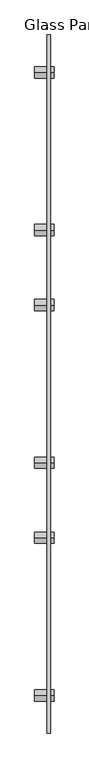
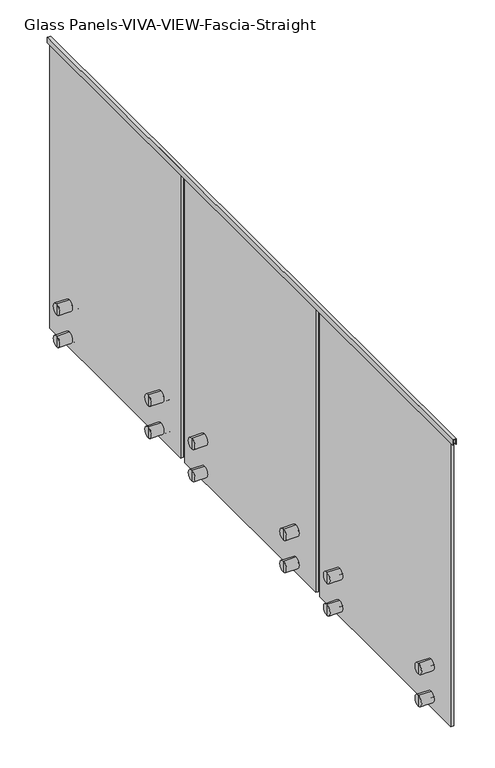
"""IFC4 building model written with IfcOpenShell, lengths in millimetres: railing geometry, Glass Panels-VIVA-VIEW-Fascia-Straight."""

from ifc_helpers import new_model, si_unit, frame, origin, place, context, project, spatial, polyline, circle_curve, outline, extrude, source, transform, mapped, element, save
from ifc_brep_helpers import plane_surface, cylinder_surface, advanced_brep


def glass_panels_viva_view_fascia_straight_22dfb696(model_context):
    return source(origin(), model_context, "Body", "SolidModel", [
        extrude(outline(polyline([(4140.2, 42942.1483583), (4114.8, 42942.1483583), (4114.8, 42943.7358583), (4138.6125, 42943.7358583), (4138.6125, 42956.4358583), (4114.8, 42956.4358583), (4114.8, 42958.0233583), (4140.2, 42958.0233583), (4140.2, 42942.1483583)])), frame((0.0, -2588.6148227, 0.0), z_axis=(0.0, 1.0, 0.0), x_axis=(0.0, 0.0, 1.0)), (0.0, 0.0, 1.0), 3149.6),
        advanced_brep(
        [(42973.8980644, -319.1651094, 2794.0), (42973.8980644, -319.1651094, 2844.8), (42973.8980644, -319.1651094, 2819.4), (42956.4355644, -319.1651094, 2794.0), (42956.4355644, -319.1651094, 2844.8), (42956.4355644, -319.1651094, 2813.685), (42956.4355644, -319.1651094, 2825.115), (42943.7355644, -319.1651094, 2813.685), (42943.7355644, -319.1651094, 2825.115), (42943.7355644, -319.1651094, 2794.0), (42943.7355644, -319.1651094, 2844.8), (42886.5857113, -319.1651094, 2794.0), (42886.5857113, -319.1651094, 2844.8), (42886.5857113, -319.1651094, 2819.4)],
        [
            (0, 1, circle_curve(frame((42973.8980644, -319.1651094, 2819.4), z_axis=(1.0, 0.0, 0.0), x_axis=(0.0, 0.0, 1.0)), 25.4)),
            (1, 2),
            (2, 0),
            (1, 0, circle_curve(frame((42973.8980644, -319.1651094, 2819.4), z_axis=(1.0, 0.0, 0.0), x_axis=(0.0, 0.0, 1.0)), 25.4)),
            (3, 4, circle_curve(frame((42956.4355644, -319.1651094, 2819.4), z_axis=(1.0, 0.0, 0.0), x_axis=(0.0, 0.0, 1.0)), 25.4)),
            (4, 1),
            (0, 3),
            (4, 3, circle_curve(frame((42956.4355644, -319.1651094, 2819.4), z_axis=(1.0, 0.0, 0.0), x_axis=(0.0, 0.0, 1.0)), 25.4)),
            (5, 6, circle_curve(frame((42956.4355644, -319.1651094, 2819.4), z_axis=(1.0, 0.0, 0.0), x_axis=(0.0, 0.0, 1.0)), 5.715)),
            (6, 4),
            (3, 5),
            (6, 5, circle_curve(frame((42956.4355644, -319.1651094, 2819.4), z_axis=(1.0, 0.0, 0.0), x_axis=(0.0, 0.0, 1.0)), 5.715)),
            (7, 8, circle_curve(frame((42943.7355644, -319.1651094, 2819.4), z_axis=(1.0, 0.0, 0.0), x_axis=(0.0, 0.0, 1.0)), 5.715)),
            (8, 6),
            (5, 7),
            (8, 7, circle_curve(frame((42943.7355644, -319.1651094, 2819.4), z_axis=(1.0, 0.0, 0.0), x_axis=(0.0, 0.0, 1.0)), 5.715)),
            (9, 10, circle_curve(frame((42943.7355644, -319.1651094, 2819.4), z_axis=(1.0, 0.0, 0.0), x_axis=(0.0, 0.0, 1.0)), 25.4)),
            (10, 8),
            (7, 9),
            (10, 9, circle_curve(frame((42943.7355644, -319.1651094, 2819.4), z_axis=(1.0, 0.0, 0.0), x_axis=(0.0, 0.0, 1.0)), 25.4)),
            (11, 12, circle_curve(frame((42886.5857113, -319.1651094, 2819.4), z_axis=(1.0, 0.0, 0.0), x_axis=(0.0, 0.0, 1.0)), 25.4)),
            (12, 10),
            (9, 11),
            (12, 11, circle_curve(frame((42886.5857113, -319.1651094, 2819.4), z_axis=(1.0, 0.0, 0.0), x_axis=(0.0, 0.0, 1.0)), 25.4)),
            (13, 12),
            (11, 13),
        ],
        [
            plane_surface(frame((42973.8980644, -319.1651094, 2819.4), z_axis=(1.0, 0.0, 0.0), x_axis=(0.0, 0.0, 1.0))),
            cylinder_surface(frame((43042.1607113, -319.1651094, 2819.4), z_axis=(-1.0, 0.0, 0.0), x_axis=(0.0, 0.0, 1.0)), 25.4),
            plane_surface(frame((42956.4355644, -319.1651094, 2819.4), z_axis=(-1.0, 0.0, 0.0), x_axis=(0.0, 0.0, 1.0))),
            cylinder_surface(frame((43042.1607113, -319.1651094, 2819.4), z_axis=(-1.0, 0.0, 0.0), x_axis=(0.0, 0.0, 1.0)), 5.715),
            plane_surface(frame((42943.7355644, -319.1651094, 2819.4), z_axis=(1.0, 0.0, 0.0), x_axis=(0.0, 0.0, 1.0))),
            plane_surface(frame((42886.5857113, -319.1651094, 2819.4), z_axis=(-1.0, 0.0, 0.0), x_axis=(0.0, 0.0, 1.0))),
        ],
        [
            (0, [[1, 2, 3]]),
            (0, [[4, -3, -2]]),
            (1, [[5, 6, -1, 7]]),
            (1, [[8, -7, -4, -6]]),
            (2, [[9, 10, -5, 11]]),
            (2, [[12, -11, -8, -10]]),
            (3, [[13, 14, -9, 15]]),
            (3, [[16, -15, -12, -14]]),
            (4, [[17, 18, -13, 19]]),
            (4, [[20, -19, -16, -18]]),
            (1, [[21, 22, -17, 23]]),
            (1, [[24, -23, -20, -22]]),
            (5, [[25, -21, 26]]),
            (5, [[-26, -24, -25]]),
        ],
    ),
        advanced_brep(
        [(42956.4355644, -319.1651094, 2966.085), (42956.4355644, -319.1651094, 2977.515), (42956.4355644, -319.1651094, 2997.2), (42956.4355644, -319.1651094, 2946.4), (42943.7355644, -319.1651094, 2966.085), (42943.7355644, -319.1651094, 2977.515), (42943.7355644, -319.1651094, 2946.4), (42943.7355644, -319.1651094, 2997.2), (42886.5857113, -319.1651094, 2946.4), (42886.5857113, -319.1651094, 2997.2), (42886.5857113, -319.1651094, 2971.8), (42973.8980644, -319.1651094, 2946.4), (42973.8980644, -319.1651094, 2997.2), (42973.8980644, -319.1651094, 2971.8)],
        [
            (0, 1, circle_curve(frame((42956.4355644, -319.1651094, 2971.8), z_axis=(1.0, 0.0, 0.0), x_axis=(0.0, 0.0, 1.0)), 5.715)),
            (1, 2),
            (2, 3, circle_curve(frame((42956.4355644, -319.1651094, 2971.8), z_axis=(-1.0, 0.0, 0.0), x_axis=(0.0, 0.0, 1.0)), 25.4)),
            (3, 0),
            (1, 0, circle_curve(frame((42956.4355644, -319.1651094, 2971.8), z_axis=(1.0, 0.0, 0.0), x_axis=(0.0, 0.0, 1.0)), 5.715)),
            (3, 2, circle_curve(frame((42956.4355644, -319.1651094, 2971.8), z_axis=(-1.0, 0.0, 0.0), x_axis=(0.0, 0.0, 1.0)), 25.4)),
            (4, 5, circle_curve(frame((42943.7355644, -319.1651094, 2971.8), z_axis=(1.0, 0.0, 0.0), x_axis=(0.0, 0.0, 1.0)), 5.715)),
            (5, 1),
            (0, 4),
            (5, 4, circle_curve(frame((42943.7355644, -319.1651094, 2971.8), z_axis=(1.0, 0.0, 0.0), x_axis=(0.0, 0.0, 1.0)), 5.715)),
            (6, 7, circle_curve(frame((42943.7355644, -319.1651094, 2971.8), z_axis=(1.0, 0.0, 0.0), x_axis=(0.0, 0.0, 1.0)), 25.4)),
            (7, 5),
            (4, 6),
            (7, 6, circle_curve(frame((42943.7355644, -319.1651094, 2971.8), z_axis=(1.0, 0.0, 0.0), x_axis=(0.0, 0.0, 1.0)), 25.4)),
            (8, 9, circle_curve(frame((42886.5857113, -319.1651094, 2971.8), z_axis=(1.0, 0.0, 0.0), x_axis=(0.0, 0.0, 1.0)), 25.4)),
            (9, 7),
            (6, 8),
            (9, 8, circle_curve(frame((42886.5857113, -319.1651094, 2971.8), z_axis=(1.0, 0.0, 0.0), x_axis=(0.0, 0.0, 1.0)), 25.4)),
            (10, 9),
            (8, 10),
            (11, 12, circle_curve(frame((42973.8980644, -319.1651094, 2971.8), z_axis=(1.0, 0.0, 0.0), x_axis=(0.0, 0.0, 1.0)), 25.4)),
            (12, 13),
            (13, 11),
            (12, 11, circle_curve(frame((42973.8980644, -319.1651094, 2971.8), z_axis=(1.0, 0.0, 0.0), x_axis=(0.0, 0.0, 1.0)), 25.4)),
            (2, 12),
            (11, 3),
        ],
        [
            plane_surface(frame((42956.4355644, -319.1651094, 2971.8), z_axis=(-1.0, 0.0, 0.0), x_axis=(0.0, 0.0, 1.0))),
            cylinder_surface(frame((43042.1607113, -319.1651094, 2971.8), z_axis=(-1.0, 0.0, 0.0), x_axis=(0.0, 0.0, 1.0)), 5.715),
            plane_surface(frame((42943.7355644, -319.1651094, 2971.8), z_axis=(1.0, 0.0, 0.0), x_axis=(0.0, 0.0, 1.0))),
            cylinder_surface(frame((43042.1607113, -319.1651094, 2971.8), z_axis=(-1.0, 0.0, 0.0), x_axis=(0.0, 0.0, 1.0)), 25.4),
            plane_surface(frame((42886.5857113, -319.1651094, 2971.8), z_axis=(-1.0, 0.0, 0.0), x_axis=(0.0, 0.0, 1.0))),
            plane_surface(frame((42973.8980644, -319.1651094, 2971.8), z_axis=(1.0, 0.0, 0.0), x_axis=(0.0, 0.0, 1.0))),
        ],
        [
            (0, [[1, 2, 3, 4]]),
            (0, [[5, -4, 6, -2]]),
            (1, [[7, 8, -1, 9]]),
            (1, [[10, -9, -5, -8]]),
            (2, [[11, 12, -7, 13]]),
            (2, [[14, -13, -10, -12]]),
            (3, [[15, 16, -11, 17]]),
            (3, [[18, -17, -14, -16]]),
            (4, [[19, -15, 20]]),
            (4, [[-20, -18, -19]]),
            (5, [[21, 22, 23]]),
            (5, [[24, -23, -22]]),
            (3, [[-3, 25, -21, 26]]),
            (3, [[-6, -26, -24, -25]]),
        ],
    ),
        advanced_brep(
        [(42973.8980644, 392.0348906, 2794.0), (42973.8980644, 392.0348906, 2844.8), (42973.8980644, 392.0348906, 2819.4), (42956.4355644, 392.0348906, 2794.0), (42956.4355644, 392.0348906, 2844.8), (42956.4355644, 392.0348906, 2813.685), (42956.4355644, 392.0348906, 2825.115), (42943.7355644, 392.0348906, 2813.685), (42943.7355644, 392.0348906, 2825.115), (42943.7355644, 392.0348906, 2794.0), (42943.7355644, 392.0348906, 2844.8), (42886.5857113, 392.0348906, 2794.0), (42886.5857113, 392.0348906, 2844.8), (42886.5857113, 392.0348906, 2819.4)],
        [
            (0, 1, circle_curve(frame((42973.8980644, 392.0348906, 2819.4), z_axis=(1.0, 0.0, 0.0), x_axis=(0.0, 0.0, 1.0)), 25.4)),
            (1, 2),
            (2, 0),
            (1, 0, circle_curve(frame((42973.8980644, 392.0348906, 2819.4), z_axis=(1.0, 0.0, 0.0), x_axis=(0.0, 0.0, 1.0)), 25.4)),
            (3, 4, circle_curve(frame((42956.4355644, 392.0348906, 2819.4), z_axis=(1.0, 0.0, 0.0), x_axis=(0.0, 0.0, 1.0)), 25.4)),
            (4, 1),
            (0, 3),
            (4, 3, circle_curve(frame((42956.4355644, 392.0348906, 2819.4), z_axis=(1.0, 0.0, 0.0), x_axis=(0.0, 0.0, 1.0)), 25.4)),
            (5, 6, circle_curve(frame((42956.4355644, 392.0348906, 2819.4), z_axis=(1.0, 0.0, 0.0), x_axis=(0.0, 0.0, 1.0)), 5.715)),
            (6, 4),
            (3, 5),
            (6, 5, circle_curve(frame((42956.4355644, 392.0348906, 2819.4), z_axis=(1.0, 0.0, 0.0), x_axis=(0.0, 0.0, 1.0)), 5.715)),
            (7, 8, circle_curve(frame((42943.7355644, 392.0348906, 2819.4), z_axis=(1.0, 0.0, 0.0), x_axis=(0.0, 0.0, 1.0)), 5.715)),
            (8, 6),
            (5, 7),
            (8, 7, circle_curve(frame((42943.7355644, 392.0348906, 2819.4), z_axis=(1.0, 0.0, 0.0), x_axis=(0.0, 0.0, 1.0)), 5.715)),
            (9, 10, circle_curve(frame((42943.7355644, 392.0348906, 2819.4), z_axis=(1.0, 0.0, 0.0), x_axis=(0.0, 0.0, 1.0)), 25.4)),
            (10, 8),
            (7, 9),
            (10, 9, circle_curve(frame((42943.7355644, 392.0348906, 2819.4), z_axis=(1.0, 0.0, 0.0), x_axis=(0.0, 0.0, 1.0)), 25.4)),
            (11, 12, circle_curve(frame((42886.5857113, 392.0348906, 2819.4), z_axis=(1.0, 0.0, 0.0), x_axis=(0.0, 0.0, 1.0)), 25.4)),
            (12, 10),
            (9, 11),
            (12, 11, circle_curve(frame((42886.5857113, 392.0348906, 2819.4), z_axis=(1.0, 0.0, 0.0), x_axis=(0.0, 0.0, 1.0)), 25.4)),
            (13, 12),
            (11, 13),
        ],
        [
            plane_surface(frame((42973.8980644, 392.0348906, 2819.4), z_axis=(1.0, 0.0, 0.0), x_axis=(0.0, 0.0, 1.0))),
            cylinder_surface(frame((43042.1607113, 392.0348906, 2819.4), z_axis=(-1.0, 0.0, 0.0), x_axis=(0.0, 0.0, 1.0)), 25.4),
            plane_surface(frame((42956.4355644, 392.0348906, 2819.4), z_axis=(-1.0, 0.0, 0.0), x_axis=(0.0, 0.0, 1.0))),
            cylinder_surface(frame((43042.1607113, 392.0348906, 2819.4), z_axis=(-1.0, 0.0, 0.0), x_axis=(0.0, 0.0, 1.0)), 5.715),
            plane_surface(frame((42943.7355644, 392.0348906, 2819.4), z_axis=(1.0, 0.0, 0.0), x_axis=(0.0, 0.0, 1.0))),
            plane_surface(frame((42886.5857113, 392.0348906, 2819.4), z_axis=(-1.0, 0.0, 0.0), x_axis=(0.0, 0.0, 1.0))),
        ],
        [
            (0, [[1, 2, 3]]),
            (0, [[4, -3, -2]]),
            (1, [[5, 6, -1, 7]]),
            (1, [[8, -7, -4, -6]]),
            (2, [[9, 10, -5, 11]]),
            (2, [[12, -11, -8, -10]]),
            (3, [[13, 14, -9, 15]]),
            (3, [[16, -15, -12, -14]]),
            (4, [[17, 18, -13, 19]]),
            (4, [[20, -19, -16, -18]]),
            (1, [[21, 22, -17, 23]]),
            (1, [[24, -23, -20, -22]]),
            (5, [[25, -21, 26]]),
            (5, [[-26, -24, -25]]),
        ],
    ),
        advanced_brep(
        [(42956.4355644, 392.0348906, 2966.085), (42956.4355644, 392.0348906, 2977.515), (42956.4355644, 392.0348906, 2997.2), (42956.4355644, 392.0348906, 2946.4), (42943.7355644, 392.0348906, 2966.085), (42943.7355644, 392.0348906, 2977.515), (42943.7355644, 392.0348906, 2946.4), (42943.7355644, 392.0348906, 2997.2), (42886.5857113, 392.0348906, 2946.4), (42886.5857113, 392.0348906, 2997.2), (42886.5857113, 392.0348906, 2971.8), (42973.8980644, 392.0348906, 2946.4), (42973.8980644, 392.0348906, 2997.2), (42973.8980644, 392.0348906, 2971.8)],
        [
            (0, 1, circle_curve(frame((42956.4355644, 392.0348906, 2971.8), z_axis=(1.0, 0.0, 0.0), x_axis=(0.0, 0.0, 1.0)), 5.715)),
            (1, 2),
            (2, 3, circle_curve(frame((42956.4355644, 392.0348906, 2971.8), z_axis=(-1.0, 0.0, 0.0), x_axis=(0.0, 0.0, 1.0)), 25.4)),
            (3, 0),
            (1, 0, circle_curve(frame((42956.4355644, 392.0348906, 2971.8), z_axis=(1.0, 0.0, 0.0), x_axis=(0.0, 0.0, 1.0)), 5.715)),
            (3, 2, circle_curve(frame((42956.4355644, 392.0348906, 2971.8), z_axis=(-1.0, 0.0, 0.0), x_axis=(0.0, 0.0, 1.0)), 25.4)),
            (4, 5, circle_curve(frame((42943.7355644, 392.0348906, 2971.8), z_axis=(1.0, 0.0, 0.0), x_axis=(0.0, 0.0, 1.0)), 5.715)),
            (5, 1),
            (0, 4),
            (5, 4, circle_curve(frame((42943.7355644, 392.0348906, 2971.8), z_axis=(1.0, 0.0, 0.0), x_axis=(0.0, 0.0, 1.0)), 5.715)),
            (6, 7, circle_curve(frame((42943.7355644, 392.0348906, 2971.8), z_axis=(1.0, 0.0, 0.0), x_axis=(0.0, 0.0, 1.0)), 25.4)),
            (7, 5),
            (4, 6),
            (7, 6, circle_curve(frame((42943.7355644, 392.0348906, 2971.8), z_axis=(1.0, 0.0, 0.0), x_axis=(0.0, 0.0, 1.0)), 25.4)),
            (8, 9, circle_curve(frame((42886.5857113, 392.0348906, 2971.8), z_axis=(1.0, 0.0, 0.0), x_axis=(0.0, 0.0, 1.0)), 25.4)),
            (9, 7),
            (6, 8),
            (9, 8, circle_curve(frame((42886.5857113, 392.0348906, 2971.8), z_axis=(1.0, 0.0, 0.0), x_axis=(0.0, 0.0, 1.0)), 25.4)),
            (10, 9),
            (8, 10),
            (11, 12, circle_curve(frame((42973.8980644, 392.0348906, 2971.8), z_axis=(1.0, 0.0, 0.0), x_axis=(0.0, 0.0, 1.0)), 25.4)),
            (12, 13),
            (13, 11),
            (12, 11, circle_curve(frame((42973.8980644, 392.0348906, 2971.8), z_axis=(1.0, 0.0, 0.0), x_axis=(0.0, 0.0, 1.0)), 25.4)),
            (2, 12),
            (11, 3),
        ],
        [
            plane_surface(frame((42956.4355644, 392.0348906, 2971.8), z_axis=(-1.0, 0.0, 0.0), x_axis=(0.0, 0.0, 1.0))),
            cylinder_surface(frame((43042.1607113, 392.0348906, 2971.8), z_axis=(-1.0, 0.0, 0.0), x_axis=(0.0, 0.0, 1.0)), 5.715),
            plane_surface(frame((42943.7355644, 392.0348906, 2971.8), z_axis=(1.0, 0.0, 0.0), x_axis=(0.0, 0.0, 1.0))),
            cylinder_surface(frame((43042.1607113, 392.0348906, 2971.8), z_axis=(-1.0, 0.0, 0.0), x_axis=(0.0, 0.0, 1.0)), 25.4),
            plane_surface(frame((42886.5857113, 392.0348906, 2971.8), z_axis=(-1.0, 0.0, 0.0), x_axis=(0.0, 0.0, 1.0))),
            plane_surface(frame((42973.8980644, 392.0348906, 2971.8), z_axis=(1.0, 0.0, 0.0), x_axis=(0.0, 0.0, 1.0))),
        ],
        [
            (0, [[1, 2, 3, 4]]),
            (0, [[5, -4, 6, -2]]),
            (1, [[7, 8, -1, 9]]),
            (1, [[10, -9, -5, -8]]),
            (2, [[11, 12, -7, 13]]),
            (2, [[14, -13, -10, -12]]),
            (3, [[15, 16, -11, 17]]),
            (3, [[18, -17, -14, -16]]),
            (4, [[19, -15, 20]]),
            (4, [[-20, -18, -19]]),
            (5, [[21, 22, 23]]),
            (5, [[24, -23, -22]]),
            (3, [[-3, 25, -21, 26]]),
            (3, [[-6, -26, -24, -25]]),
        ],
    ),
        extrude(outline(polyline([(42943.7358583, -471.5651094), (42943.7358583, 544.4348906), (42956.4358583, 544.4348906), (42956.4358583, -471.5651094), (42943.7358583, -471.5651094)])), frame((0.0, 0.0, 2768.6), z_axis=(0.0, 0.0, 1.0), x_axis=(1.0, 0.0, 0.0)), (0.0, 0.0, 1.0), 1370.0125),
        advanced_brep(
        [(42973.8980644, -1369.0317761, 2794.0), (42973.8980644, -1369.0317761, 2844.8), (42973.8980644, -1369.0317761, 2819.4), (42956.4355644, -1369.0317761, 2794.0), (42956.4355644, -1369.0317761, 2844.8), (42956.4355644, -1369.0317761, 2813.685), (42956.4355644, -1369.0317761, 2825.115), (42943.7355644, -1369.0317761, 2813.685), (42943.7355644, -1369.0317761, 2825.115), (42943.7355644, -1369.0317761, 2794.0), (42943.7355644, -1369.0317761, 2844.8), (42886.5857113, -1369.0317761, 2794.0), (42886.5857113, -1369.0317761, 2844.8), (42886.5857113, -1369.0317761, 2819.4)],
        [
            (0, 1, circle_curve(frame((42973.8980644, -1369.0317761, 2819.4), z_axis=(1.0, 0.0, 0.0), x_axis=(0.0, 0.0, 1.0)), 25.4)),
            (1, 2),
            (2, 0),
            (1, 0, circle_curve(frame((42973.8980644, -1369.0317761, 2819.4), z_axis=(1.0, 0.0, 0.0), x_axis=(0.0, 0.0, 1.0)), 25.4)),
            (3, 4, circle_curve(frame((42956.4355644, -1369.0317761, 2819.4), z_axis=(1.0, 0.0, 0.0), x_axis=(0.0, 0.0, 1.0)), 25.4)),
            (4, 1),
            (0, 3),
            (4, 3, circle_curve(frame((42956.4355644, -1369.0317761, 2819.4), z_axis=(1.0, 0.0, 0.0), x_axis=(0.0, 0.0, 1.0)), 25.4)),
            (5, 6, circle_curve(frame((42956.4355644, -1369.0317761, 2819.4), z_axis=(1.0, 0.0, 0.0), x_axis=(0.0, 0.0, 1.0)), 5.715)),
            (6, 4),
            (3, 5),
            (6, 5, circle_curve(frame((42956.4355644, -1369.0317761, 2819.4), z_axis=(1.0, 0.0, 0.0), x_axis=(0.0, 0.0, 1.0)), 5.715)),
            (7, 8, circle_curve(frame((42943.7355644, -1369.0317761, 2819.4), z_axis=(1.0, 0.0, 0.0), x_axis=(0.0, 0.0, 1.0)), 5.715)),
            (8, 6),
            (5, 7),
            (8, 7, circle_curve(frame((42943.7355644, -1369.0317761, 2819.4), z_axis=(1.0, 0.0, 0.0), x_axis=(0.0, 0.0, 1.0)), 5.715)),
            (9, 10, circle_curve(frame((42943.7355644, -1369.0317761, 2819.4), z_axis=(1.0, 0.0, 0.0), x_axis=(0.0, 0.0, 1.0)), 25.4)),
            (10, 8),
            (7, 9),
            (10, 9, circle_curve(frame((42943.7355644, -1369.0317761, 2819.4), z_axis=(1.0, 0.0, 0.0), x_axis=(0.0, 0.0, 1.0)), 25.4)),
            (11, 12, circle_curve(frame((42886.5857113, -1369.0317761, 2819.4), z_axis=(1.0, 0.0, 0.0), x_axis=(0.0, 0.0, 1.0)), 25.4)),
            (12, 10),
            (9, 11),
            (12, 11, circle_curve(frame((42886.5857113, -1369.0317761, 2819.4), z_axis=(1.0, 0.0, 0.0), x_axis=(0.0, 0.0, 1.0)), 25.4)),
            (13, 12),
            (11, 13),
        ],
        [
            plane_surface(frame((42973.8980644, -1369.0317761, 2819.4), z_axis=(1.0, 0.0, 0.0), x_axis=(0.0, 0.0, 1.0))),
            cylinder_surface(frame((43042.1607113, -1369.0317761, 2819.4), z_axis=(-1.0, 0.0, 0.0), x_axis=(0.0, 0.0, 1.0)), 25.4),
            plane_surface(frame((42956.4355644, -1369.0317761, 2819.4), z_axis=(-1.0, 0.0, 0.0), x_axis=(0.0, 0.0, 1.0))),
            cylinder_surface(frame((43042.1607113, -1369.0317761, 2819.4), z_axis=(-1.0, 0.0, 0.0), x_axis=(0.0, 0.0, 1.0)), 5.715),
            plane_surface(frame((42943.7355644, -1369.0317761, 2819.4), z_axis=(1.0, 0.0, 0.0), x_axis=(0.0, 0.0, 1.0))),
            plane_surface(frame((42886.5857113, -1369.0317761, 2819.4), z_axis=(-1.0, 0.0, 0.0), x_axis=(0.0, 0.0, 1.0))),
        ],
        [
            (0, [[1, 2, 3]]),
            (0, [[4, -3, -2]]),
            (1, [[5, 6, -1, 7]]),
            (1, [[8, -7, -4, -6]]),
            (2, [[9, 10, -5, 11]]),
            (2, [[12, -11, -8, -10]]),
            (3, [[13, 14, -9, 15]]),
            (3, [[16, -15, -12, -14]]),
            (4, [[17, 18, -13, 19]]),
            (4, [[20, -19, -16, -18]]),
            (1, [[21, 22, -17, 23]]),
            (1, [[24, -23, -20, -22]]),
            (5, [[25, -21, 26]]),
            (5, [[-26, -24, -25]]),
        ],
    ),
        advanced_brep(
        [(42956.4355644, -1369.0317761, 2966.085), (42956.4355644, -1369.0317761, 2977.515), (42956.4355644, -1369.0317761, 2997.2), (42956.4355644, -1369.0317761, 2946.4), (42943.7355644, -1369.0317761, 2966.085), (42943.7355644, -1369.0317761, 2977.515), (42943.7355644, -1369.0317761, 2946.4), (42943.7355644, -1369.0317761, 2997.2), (42886.5857113, -1369.0317761, 2946.4), (42886.5857113, -1369.0317761, 2997.2), (42886.5857113, -1369.0317761, 2971.8), (42973.8980644, -1369.0317761, 2946.4), (42973.8980644, -1369.0317761, 2997.2), (42973.8980644, -1369.0317761, 2971.8)],
        [
            (0, 1, circle_curve(frame((42956.4355644, -1369.0317761, 2971.8), z_axis=(1.0, 0.0, 0.0), x_axis=(0.0, 0.0, 1.0)), 5.715)),
            (1, 2),
            (2, 3, circle_curve(frame((42956.4355644, -1369.0317761, 2971.8), z_axis=(-1.0, 0.0, 0.0), x_axis=(0.0, 0.0, 1.0)), 25.4)),
            (3, 0),
            (1, 0, circle_curve(frame((42956.4355644, -1369.0317761, 2971.8), z_axis=(1.0, 0.0, 0.0), x_axis=(0.0, 0.0, 1.0)), 5.715)),
            (3, 2, circle_curve(frame((42956.4355644, -1369.0317761, 2971.8), z_axis=(-1.0, 0.0, 0.0), x_axis=(0.0, 0.0, 1.0)), 25.4)),
            (4, 5, circle_curve(frame((42943.7355644, -1369.0317761, 2971.8), z_axis=(1.0, 0.0, 0.0), x_axis=(0.0, 0.0, 1.0)), 5.715)),
            (5, 1),
            (0, 4),
            (5, 4, circle_curve(frame((42943.7355644, -1369.0317761, 2971.8), z_axis=(1.0, 0.0, 0.0), x_axis=(0.0, 0.0, 1.0)), 5.715)),
            (6, 7, circle_curve(frame((42943.7355644, -1369.0317761, 2971.8), z_axis=(1.0, 0.0, 0.0), x_axis=(0.0, 0.0, 1.0)), 25.4)),
            (7, 5),
            (4, 6),
            (7, 6, circle_curve(frame((42943.7355644, -1369.0317761, 2971.8), z_axis=(1.0, 0.0, 0.0), x_axis=(0.0, 0.0, 1.0)), 25.4)),
            (8, 9, circle_curve(frame((42886.5857113, -1369.0317761, 2971.8), z_axis=(1.0, 0.0, 0.0), x_axis=(0.0, 0.0, 1.0)), 25.4)),
            (9, 7),
            (6, 8),
            (9, 8, circle_curve(frame((42886.5857113, -1369.0317761, 2971.8), z_axis=(1.0, 0.0, 0.0), x_axis=(0.0, 0.0, 1.0)), 25.4)),
            (10, 9),
            (8, 10),
            (11, 12, circle_curve(frame((42973.8980644, -1369.0317761, 2971.8), z_axis=(1.0, 0.0, 0.0), x_axis=(0.0, 0.0, 1.0)), 25.4)),
            (12, 13),
            (13, 11),
            (12, 11, circle_curve(frame((42973.8980644, -1369.0317761, 2971.8), z_axis=(1.0, 0.0, 0.0), x_axis=(0.0, 0.0, 1.0)), 25.4)),
            (2, 12),
            (11, 3),
        ],
        [
            plane_surface(frame((42956.4355644, -1369.0317761, 2971.8), z_axis=(-1.0, 0.0, 0.0), x_axis=(0.0, 0.0, 1.0))),
            cylinder_surface(frame((43042.1607113, -1369.0317761, 2971.8), z_axis=(-1.0, 0.0, 0.0), x_axis=(0.0, 0.0, 1.0)), 5.715),
            plane_surface(frame((42943.7355644, -1369.0317761, 2971.8), z_axis=(1.0, 0.0, 0.0), x_axis=(0.0, 0.0, 1.0))),
            cylinder_surface(frame((43042.1607113, -1369.0317761, 2971.8), z_axis=(-1.0, 0.0, 0.0), x_axis=(0.0, 0.0, 1.0)), 25.4),
            plane_surface(frame((42886.5857113, -1369.0317761, 2971.8), z_axis=(-1.0, 0.0, 0.0), x_axis=(0.0, 0.0, 1.0))),
            plane_surface(frame((42973.8980644, -1369.0317761, 2971.8), z_axis=(1.0, 0.0, 0.0), x_axis=(0.0, 0.0, 1.0))),
        ],
        [
            (0, [[1, 2, 3, 4]]),
            (0, [[5, -4, 6, -2]]),
            (1, [[7, 8, -1, 9]]),
            (1, [[10, -9, -5, -8]]),
            (2, [[11, 12, -7, 13]]),
            (2, [[14, -13, -10, -12]]),
            (3, [[15, 16, -11, 17]]),
            (3, [[18, -17, -14, -16]]),
            (4, [[19, -15, 20]]),
            (4, [[-20, -18, -19]]),
            (5, [[21, 22, 23]]),
            (5, [[24, -23, -22]]),
            (3, [[-3, 25, -21, 26]]),
            (3, [[-6, -26, -24, -25]]),
        ],
    ),
        advanced_brep(
        [(42973.8980644, -657.8317761, 2794.0), (42973.8980644, -657.8317761, 2844.8), (42973.8980644, -657.8317761, 2819.4), (42956.4355644, -657.8317761, 2794.0), (42956.4355644, -657.8317761, 2844.8), (42956.4355644, -657.8317761, 2813.685), (42956.4355644, -657.8317761, 2825.115), (42943.7355644, -657.8317761, 2813.685), (42943.7355644, -657.8317761, 2825.115), (42943.7355644, -657.8317761, 2794.0), (42943.7355644, -657.8317761, 2844.8), (42886.5857113, -657.8317761, 2794.0), (42886.5857113, -657.8317761, 2844.8), (42886.5857113, -657.8317761, 2819.4)],
        [
            (0, 1, circle_curve(frame((42973.8980644, -657.8317761, 2819.4), z_axis=(1.0, 0.0, 0.0), x_axis=(0.0, 0.0, 1.0)), 25.4)),
            (1, 2),
            (2, 0),
            (1, 0, circle_curve(frame((42973.8980644, -657.8317761, 2819.4), z_axis=(1.0, 0.0, 0.0), x_axis=(0.0, 0.0, 1.0)), 25.4)),
            (3, 4, circle_curve(frame((42956.4355644, -657.8317761, 2819.4), z_axis=(1.0, 0.0, 0.0), x_axis=(0.0, 0.0, 1.0)), 25.4)),
            (4, 1),
            (0, 3),
            (4, 3, circle_curve(frame((42956.4355644, -657.8317761, 2819.4), z_axis=(1.0, 0.0, 0.0), x_axis=(0.0, 0.0, 1.0)), 25.4)),
            (5, 6, circle_curve(frame((42956.4355644, -657.8317761, 2819.4), z_axis=(1.0, 0.0, 0.0), x_axis=(0.0, 0.0, 1.0)), 5.715)),
            (6, 4),
            (3, 5),
            (6, 5, circle_curve(frame((42956.4355644, -657.8317761, 2819.4), z_axis=(1.0, 0.0, 0.0), x_axis=(0.0, 0.0, 1.0)), 5.715)),
            (7, 8, circle_curve(frame((42943.7355644, -657.8317761, 2819.4), z_axis=(1.0, 0.0, 0.0), x_axis=(0.0, 0.0, 1.0)), 5.715)),
            (8, 6),
            (5, 7),
            (8, 7, circle_curve(frame((42943.7355644, -657.8317761, 2819.4), z_axis=(1.0, 0.0, 0.0), x_axis=(0.0, 0.0, 1.0)), 5.715)),
            (9, 10, circle_curve(frame((42943.7355644, -657.8317761, 2819.4), z_axis=(1.0, 0.0, 0.0), x_axis=(0.0, 0.0, 1.0)), 25.4)),
            (10, 8),
            (7, 9),
            (10, 9, circle_curve(frame((42943.7355644, -657.8317761, 2819.4), z_axis=(1.0, 0.0, 0.0), x_axis=(0.0, 0.0, 1.0)), 25.4)),
            (11, 12, circle_curve(frame((42886.5857113, -657.8317761, 2819.4), z_axis=(1.0, 0.0, 0.0), x_axis=(0.0, 0.0, 1.0)), 25.4)),
            (12, 10),
            (9, 11),
            (12, 11, circle_curve(frame((42886.5857113, -657.8317761, 2819.4), z_axis=(1.0, 0.0, 0.0), x_axis=(0.0, 0.0, 1.0)), 25.4)),
            (13, 12),
            (11, 13),
        ],
        [
            plane_surface(frame((42973.8980644, -657.8317761, 2819.4), z_axis=(1.0, 0.0, 0.0), x_axis=(0.0, 0.0, 1.0))),
            cylinder_surface(frame((43042.1607113, -657.8317761, 2819.4), z_axis=(-1.0, 0.0, 0.0), x_axis=(0.0, 0.0, 1.0)), 25.4),
            plane_surface(frame((42956.4355644, -657.8317761, 2819.4), z_axis=(-1.0, 0.0, 0.0), x_axis=(0.0, 0.0, 1.0))),
            cylinder_surface(frame((43042.1607113, -657.8317761, 2819.4), z_axis=(-1.0, 0.0, 0.0), x_axis=(0.0, 0.0, 1.0)), 5.715),
            plane_surface(frame((42943.7355644, -657.8317761, 2819.4), z_axis=(1.0, 0.0, 0.0), x_axis=(0.0, 0.0, 1.0))),
            plane_surface(frame((42886.5857113, -657.8317761, 2819.4), z_axis=(-1.0, 0.0, 0.0), x_axis=(0.0, 0.0, 1.0))),
        ],
        [
            (0, [[1, 2, 3]]),
            (0, [[4, -3, -2]]),
            (1, [[5, 6, -1, 7]]),
            (1, [[8, -7, -4, -6]]),
            (2, [[9, 10, -5, 11]]),
            (2, [[12, -11, -8, -10]]),
            (3, [[13, 14, -9, 15]]),
            (3, [[16, -15, -12, -14]]),
            (4, [[17, 18, -13, 19]]),
            (4, [[20, -19, -16, -18]]),
            (1, [[21, 22, -17, 23]]),
            (1, [[24, -23, -20, -22]]),
            (5, [[25, -21, 26]]),
            (5, [[-26, -24, -25]]),
        ],
    ),
        advanced_brep(
        [(42956.4355644, -657.8317761, 2966.085), (42956.4355644, -657.8317761, 2977.515), (42956.4355644, -657.8317761, 2997.2), (42956.4355644, -657.8317761, 2946.4), (42943.7355644, -657.8317761, 2966.085), (42943.7355644, -657.8317761, 2977.515), (42943.7355644, -657.8317761, 2946.4), (42943.7355644, -657.8317761, 2997.2), (42886.5857113, -657.8317761, 2946.4), (42886.5857113, -657.8317761, 2997.2), (42886.5857113, -657.8317761, 2971.8), (42973.8980644, -657.8317761, 2946.4), (42973.8980644, -657.8317761, 2997.2), (42973.8980644, -657.8317761, 2971.8)],
        [
            (0, 1, circle_curve(frame((42956.4355644, -657.8317761, 2971.8), z_axis=(1.0, 0.0, 0.0), x_axis=(0.0, 0.0, 1.0)), 5.715)),
            (1, 2),
            (2, 3, circle_curve(frame((42956.4355644, -657.8317761, 2971.8), z_axis=(-1.0, 0.0, 0.0), x_axis=(0.0, 0.0, 1.0)), 25.4)),
            (3, 0),
            (1, 0, circle_curve(frame((42956.4355644, -657.8317761, 2971.8), z_axis=(1.0, 0.0, 0.0), x_axis=(0.0, 0.0, 1.0)), 5.715)),
            (3, 2, circle_curve(frame((42956.4355644, -657.8317761, 2971.8), z_axis=(-1.0, 0.0, 0.0), x_axis=(0.0, 0.0, 1.0)), 25.4)),
            (4, 5, circle_curve(frame((42943.7355644, -657.8317761, 2971.8), z_axis=(1.0, 0.0, 0.0), x_axis=(0.0, 0.0, 1.0)), 5.715)),
            (5, 1),
            (0, 4),
            (5, 4, circle_curve(frame((42943.7355644, -657.8317761, 2971.8), z_axis=(1.0, 0.0, 0.0), x_axis=(0.0, 0.0, 1.0)), 5.715)),
            (6, 7, circle_curve(frame((42943.7355644, -657.8317761, 2971.8), z_axis=(1.0, 0.0, 0.0), x_axis=(0.0, 0.0, 1.0)), 25.4)),
            (7, 5),
            (4, 6),
            (7, 6, circle_curve(frame((42943.7355644, -657.8317761, 2971.8), z_axis=(1.0, 0.0, 0.0), x_axis=(0.0, 0.0, 1.0)), 25.4)),
            (8, 9, circle_curve(frame((42886.5857113, -657.8317761, 2971.8), z_axis=(1.0, 0.0, 0.0), x_axis=(0.0, 0.0, 1.0)), 25.4)),
            (9, 7),
            (6, 8),
            (9, 8, circle_curve(frame((42886.5857113, -657.8317761, 2971.8), z_axis=(1.0, 0.0, 0.0), x_axis=(0.0, 0.0, 1.0)), 25.4)),
            (10, 9),
            (8, 10),
            (11, 12, circle_curve(frame((42973.8980644, -657.8317761, 2971.8), z_axis=(1.0, 0.0, 0.0), x_axis=(0.0, 0.0, 1.0)), 25.4)),
            (12, 13),
            (13, 11),
            (12, 11, circle_curve(frame((42973.8980644, -657.8317761, 2971.8), z_axis=(1.0, 0.0, 0.0), x_axis=(0.0, 0.0, 1.0)), 25.4)),
            (2, 12),
            (11, 3),
        ],
        [
            plane_surface(frame((42956.4355644, -657.8317761, 2971.8), z_axis=(-1.0, 0.0, 0.0), x_axis=(0.0, 0.0, 1.0))),
            cylinder_surface(frame((43042.1607113, -657.8317761, 2971.8), z_axis=(-1.0, 0.0, 0.0), x_axis=(0.0, 0.0, 1.0)), 5.715),
            plane_surface(frame((42943.7355644, -657.8317761, 2971.8), z_axis=(1.0, 0.0, 0.0), x_axis=(0.0, 0.0, 1.0))),
            cylinder_surface(frame((43042.1607113, -657.8317761, 2971.8), z_axis=(-1.0, 0.0, 0.0), x_axis=(0.0, 0.0, 1.0)), 25.4),
            plane_surface(frame((42886.5857113, -657.8317761, 2971.8), z_axis=(-1.0, 0.0, 0.0), x_axis=(0.0, 0.0, 1.0))),
            plane_surface(frame((42973.8980644, -657.8317761, 2971.8), z_axis=(1.0, 0.0, 0.0), x_axis=(0.0, 0.0, 1.0))),
        ],
        [
            (0, [[1, 2, 3, 4]]),
            (0, [[5, -4, 6, -2]]),
            (1, [[7, 8, -1, 9]]),
            (1, [[10, -9, -5, -8]]),
            (2, [[11, 12, -7, 13]]),
            (2, [[14, -13, -10, -12]]),
            (3, [[15, 16, -11, 17]]),
            (3, [[18, -17, -14, -16]]),
            (4, [[19, -15, 20]]),
            (4, [[-20, -18, -19]]),
            (5, [[21, 22, 23]]),
            (5, [[24, -23, -22]]),
            (3, [[-3, 25, -21, 26]]),
            (3, [[-6, -26, -24, -25]]),
        ],
    ),
        extrude(outline(polyline([(42943.7358583, -1521.4317761), (42943.7358583, -505.4317761), (42956.4358583, -505.4317761), (42956.4358583, -1521.4317761), (42943.7358583, -1521.4317761)])), frame((0.0, 0.0, 2768.6), z_axis=(0.0, 0.0, 1.0), x_axis=(1.0, 0.0, 0.0)), (0.0, 0.0, 1.0), 1370.0125),
        advanced_brep(
        [(42973.8980644, -2418.8984427, 2794.0), (42973.8980644, -2418.8984427, 2844.8), (42973.8980644, -2418.8984427, 2819.4), (42956.4355644, -2418.8984427, 2794.0), (42956.4355644, -2418.8984427, 2844.8), (42956.4355644, -2418.8984427, 2813.685), (42956.4355644, -2418.8984427, 2825.115), (42943.7355644, -2418.8984427, 2813.685), (42943.7355644, -2418.8984427, 2825.115), (42943.7355644, -2418.8984427, 2794.0), (42943.7355644, -2418.8984427, 2844.8), (42886.5857113, -2418.8984427, 2794.0), (42886.5857113, -2418.8984427, 2844.8), (42886.5857113, -2418.8984427, 2819.4)],
        [
            (0, 1, circle_curve(frame((42973.8980644, -2418.8984427, 2819.4), z_axis=(1.0, 0.0, 0.0), x_axis=(0.0, 0.0, 1.0)), 25.4)),
            (1, 2),
            (2, 0),
            (1, 0, circle_curve(frame((42973.8980644, -2418.8984427, 2819.4), z_axis=(1.0, 0.0, 0.0), x_axis=(0.0, 0.0, 1.0)), 25.4)),
            (3, 4, circle_curve(frame((42956.4355644, -2418.8984427, 2819.4), z_axis=(1.0, 0.0, 0.0), x_axis=(0.0, 0.0, 1.0)), 25.4)),
            (4, 1),
            (0, 3),
            (4, 3, circle_curve(frame((42956.4355644, -2418.8984427, 2819.4), z_axis=(1.0, 0.0, 0.0), x_axis=(0.0, 0.0, 1.0)), 25.4)),
            (5, 6, circle_curve(frame((42956.4355644, -2418.8984427, 2819.4), z_axis=(1.0, 0.0, 0.0), x_axis=(0.0, 0.0, 1.0)), 5.715)),
            (6, 4),
            (3, 5),
            (6, 5, circle_curve(frame((42956.4355644, -2418.8984427, 2819.4), z_axis=(1.0, 0.0, 0.0), x_axis=(0.0, 0.0, 1.0)), 5.715)),
            (7, 8, circle_curve(frame((42943.7355644, -2418.8984427, 2819.4), z_axis=(1.0, 0.0, 0.0), x_axis=(0.0, 0.0, 1.0)), 5.715)),
            (8, 6),
            (5, 7),
            (8, 7, circle_curve(frame((42943.7355644, -2418.8984427, 2819.4), z_axis=(1.0, 0.0, 0.0), x_axis=(0.0, 0.0, 1.0)), 5.715)),
            (9, 10, circle_curve(frame((42943.7355644, -2418.8984427, 2819.4), z_axis=(1.0, 0.0, 0.0), x_axis=(0.0, 0.0, 1.0)), 25.4)),
            (10, 8),
            (7, 9),
            (10, 9, circle_curve(frame((42943.7355644, -2418.8984427, 2819.4), z_axis=(1.0, 0.0, 0.0), x_axis=(0.0, 0.0, 1.0)), 25.4)),
            (11, 12, circle_curve(frame((42886.5857113, -2418.8984427, 2819.4), z_axis=(1.0, 0.0, 0.0), x_axis=(0.0, 0.0, 1.0)), 25.4)),
            (12, 10),
            (9, 11),
            (12, 11, circle_curve(frame((42886.5857113, -2418.8984427, 2819.4), z_axis=(1.0, 0.0, 0.0), x_axis=(0.0, 0.0, 1.0)), 25.4)),
            (13, 12),
            (11, 13),
        ],
        [
            plane_surface(frame((42973.8980644, -2418.8984427, 2819.4), z_axis=(1.0, 0.0, 0.0), x_axis=(0.0, 0.0, 1.0))),
            cylinder_surface(frame((43042.1607113, -2418.8984427, 2819.4), z_axis=(-1.0, 0.0, 0.0), x_axis=(0.0, 0.0, 1.0)), 25.4),
            plane_surface(frame((42956.4355644, -2418.8984427, 2819.4), z_axis=(-1.0, 0.0, 0.0), x_axis=(0.0, 0.0, 1.0))),
            cylinder_surface(frame((43042.1607113, -2418.8984427, 2819.4), z_axis=(-1.0, 0.0, 0.0), x_axis=(0.0, 0.0, 1.0)), 5.715),
            plane_surface(frame((42943.7355644, -2418.8984427, 2819.4), z_axis=(1.0, 0.0, 0.0), x_axis=(0.0, 0.0, 1.0))),
            plane_surface(frame((42886.5857113, -2418.8984427, 2819.4), z_axis=(-1.0, 0.0, 0.0), x_axis=(0.0, 0.0, 1.0))),
        ],
        [
            (0, [[1, 2, 3]]),
            (0, [[4, -3, -2]]),
            (1, [[5, 6, -1, 7]]),
            (1, [[8, -7, -4, -6]]),
            (2, [[9, 10, -5, 11]]),
            (2, [[12, -11, -8, -10]]),
            (3, [[13, 14, -9, 15]]),
            (3, [[16, -15, -12, -14]]),
            (4, [[17, 18, -13, 19]]),
            (4, [[20, -19, -16, -18]]),
            (1, [[21, 22, -17, 23]]),
            (1, [[24, -23, -20, -22]]),
            (5, [[25, -21, 26]]),
            (5, [[-26, -24, -25]]),
        ],
    ),
        advanced_brep(
        [(42956.4355644, -2418.8984427, 2966.085), (42956.4355644, -2418.8984427, 2977.515), (42956.4355644, -2418.8984427, 2997.2), (42956.4355644, -2418.8984427, 2946.4), (42943.7355644, -2418.8984427, 2966.085), (42943.7355644, -2418.8984427, 2977.515), (42943.7355644, -2418.8984427, 2946.4), (42943.7355644, -2418.8984427, 2997.2), (42886.5857113, -2418.8984427, 2946.4), (42886.5857113, -2418.8984427, 2997.2), (42886.5857113, -2418.8984427, 2971.8), (42973.8980644, -2418.8984427, 2946.4), (42973.8980644, -2418.8984427, 2997.2), (42973.8980644, -2418.8984427, 2971.8)],
        [
            (0, 1, circle_curve(frame((42956.4355644, -2418.8984427, 2971.8), z_axis=(1.0, 0.0, 0.0), x_axis=(0.0, 0.0, 1.0)), 5.715)),
            (1, 2),
            (2, 3, circle_curve(frame((42956.4355644, -2418.8984427, 2971.8), z_axis=(-1.0, 0.0, 0.0), x_axis=(0.0, 0.0, 1.0)), 25.4)),
            (3, 0),
            (1, 0, circle_curve(frame((42956.4355644, -2418.8984427, 2971.8), z_axis=(1.0, 0.0, 0.0), x_axis=(0.0, 0.0, 1.0)), 5.715)),
            (3, 2, circle_curve(frame((42956.4355644, -2418.8984427, 2971.8), z_axis=(-1.0, 0.0, 0.0), x_axis=(0.0, 0.0, 1.0)), 25.4)),
            (4, 5, circle_curve(frame((42943.7355644, -2418.8984427, 2971.8), z_axis=(1.0, 0.0, 0.0), x_axis=(0.0, 0.0, 1.0)), 5.715)),
            (5, 1),
            (0, 4),
            (5, 4, circle_curve(frame((42943.7355644, -2418.8984427, 2971.8), z_axis=(1.0, 0.0, 0.0), x_axis=(0.0, 0.0, 1.0)), 5.715)),
            (6, 7, circle_curve(frame((42943.7355644, -2418.8984427, 2971.8), z_axis=(1.0, 0.0, 0.0), x_axis=(0.0, 0.0, 1.0)), 25.4)),
            (7, 5),
            (4, 6),
            (7, 6, circle_curve(frame((42943.7355644, -2418.8984427, 2971.8), z_axis=(1.0, 0.0, 0.0), x_axis=(0.0, 0.0, 1.0)), 25.4)),
            (8, 9, circle_curve(frame((42886.5857113, -2418.8984427, 2971.8), z_axis=(1.0, 0.0, 0.0), x_axis=(0.0, 0.0, 1.0)), 25.4)),
            (9, 7),
            (6, 8),
            (9, 8, circle_curve(frame((42886.5857113, -2418.8984427, 2971.8), z_axis=(1.0, 0.0, 0.0), x_axis=(0.0, 0.0, 1.0)), 25.4)),
            (10, 9),
            (8, 10),
            (11, 12, circle_curve(frame((42973.8980644, -2418.8984427, 2971.8), z_axis=(1.0, 0.0, 0.0), x_axis=(0.0, 0.0, 1.0)), 25.4)),
            (12, 13),
            (13, 11),
            (12, 11, circle_curve(frame((42973.8980644, -2418.8984427, 2971.8), z_axis=(1.0, 0.0, 0.0), x_axis=(0.0, 0.0, 1.0)), 25.4)),
            (2, 12),
            (11, 3),
        ],
        [
            plane_surface(frame((42956.4355644, -2418.8984427, 2971.8), z_axis=(-1.0, 0.0, 0.0), x_axis=(0.0, 0.0, 1.0))),
            cylinder_surface(frame((43042.1607113, -2418.8984427, 2971.8), z_axis=(-1.0, 0.0, 0.0), x_axis=(0.0, 0.0, 1.0)), 5.715),
            plane_surface(frame((42943.7355644, -2418.8984427, 2971.8), z_axis=(1.0, 0.0, 0.0), x_axis=(0.0, 0.0, 1.0))),
            cylinder_surface(frame((43042.1607113, -2418.8984427, 2971.8), z_axis=(-1.0, 0.0, 0.0), x_axis=(0.0, 0.0, 1.0)), 25.4),
            plane_surface(frame((42886.5857113, -2418.8984427, 2971.8), z_axis=(-1.0, 0.0, 0.0), x_axis=(0.0, 0.0, 1.0))),
            plane_surface(frame((42973.8980644, -2418.8984427, 2971.8), z_axis=(1.0, 0.0, 0.0), x_axis=(0.0, 0.0, 1.0))),
        ],
        [
            (0, [[1, 2, 3, 4]]),
            (0, [[5, -4, 6, -2]]),
            (1, [[7, 8, -1, 9]]),
            (1, [[10, -9, -5, -8]]),
            (2, [[11, 12, -7, 13]]),
            (2, [[14, -13, -10, -12]]),
            (3, [[15, 16, -11, 17]]),
            (3, [[18, -17, -14, -16]]),
            (4, [[19, -15, 20]]),
            (4, [[-20, -18, -19]]),
            (5, [[21, 22, 23]]),
            (5, [[24, -23, -22]]),
            (3, [[-3, 25, -21, 26]]),
            (3, [[-6, -26, -24, -25]]),
        ],
    ),
        advanced_brep(
        [(42973.8980644, -1707.6984427, 2794.0), (42973.8980644, -1707.6984427, 2844.8), (42973.8980644, -1707.6984427, 2819.4), (42956.4355644, -1707.6984427, 2794.0), (42956.4355644, -1707.6984427, 2844.8), (42956.4355644, -1707.6984427, 2813.685), (42956.4355644, -1707.6984427, 2825.115), (42943.7355644, -1707.6984427, 2813.685), (42943.7355644, -1707.6984427, 2825.115), (42943.7355644, -1707.6984427, 2794.0), (42943.7355644, -1707.6984427, 2844.8), (42886.5857113, -1707.6984427, 2794.0), (42886.5857113, -1707.6984427, 2844.8), (42886.5857113, -1707.6984427, 2819.4)],
        [
            (0, 1, circle_curve(frame((42973.8980644, -1707.6984427, 2819.4), z_axis=(1.0, 0.0, 0.0), x_axis=(0.0, 0.0, 1.0)), 25.4)),
            (1, 2),
            (2, 0),
            (1, 0, circle_curve(frame((42973.8980644, -1707.6984427, 2819.4), z_axis=(1.0, 0.0, 0.0), x_axis=(0.0, 0.0, 1.0)), 25.4)),
            (3, 4, circle_curve(frame((42956.4355644, -1707.6984427, 2819.4), z_axis=(1.0, 0.0, 0.0), x_axis=(0.0, 0.0, 1.0)), 25.4)),
            (4, 1),
            (0, 3),
            (4, 3, circle_curve(frame((42956.4355644, -1707.6984427, 2819.4), z_axis=(1.0, 0.0, 0.0), x_axis=(0.0, 0.0, 1.0)), 25.4)),
            (5, 6, circle_curve(frame((42956.4355644, -1707.6984427, 2819.4), z_axis=(1.0, 0.0, 0.0), x_axis=(0.0, 0.0, 1.0)), 5.715)),
            (6, 4),
            (3, 5),
            (6, 5, circle_curve(frame((42956.4355644, -1707.6984427, 2819.4), z_axis=(1.0, 0.0, 0.0), x_axis=(0.0, 0.0, 1.0)), 5.715)),
            (7, 8, circle_curve(frame((42943.7355644, -1707.6984427, 2819.4), z_axis=(1.0, 0.0, 0.0), x_axis=(0.0, 0.0, 1.0)), 5.715)),
            (8, 6),
            (5, 7),
            (8, 7, circle_curve(frame((42943.7355644, -1707.6984427, 2819.4), z_axis=(1.0, 0.0, 0.0), x_axis=(0.0, 0.0, 1.0)), 5.715)),
            (9, 10, circle_curve(frame((42943.7355644, -1707.6984427, 2819.4), z_axis=(1.0, 0.0, 0.0), x_axis=(0.0, 0.0, 1.0)), 25.4)),
            (10, 8),
            (7, 9),
            (10, 9, circle_curve(frame((42943.7355644, -1707.6984427, 2819.4), z_axis=(1.0, 0.0, 0.0), x_axis=(0.0, 0.0, 1.0)), 25.4)),
            (11, 12, circle_curve(frame((42886.5857113, -1707.6984427, 2819.4), z_axis=(1.0, 0.0, 0.0), x_axis=(0.0, 0.0, 1.0)), 25.4)),
            (12, 10),
            (9, 11),
            (12, 11, circle_curve(frame((42886.5857113, -1707.6984427, 2819.4), z_axis=(1.0, 0.0, 0.0), x_axis=(0.0, 0.0, 1.0)), 25.4)),
            (13, 12),
            (11, 13),
        ],
        [
            plane_surface(frame((42973.8980644, -1707.6984427, 2819.4), z_axis=(1.0, 0.0, 0.0), x_axis=(0.0, 0.0, 1.0))),
            cylinder_surface(frame((43042.1607113, -1707.6984427, 2819.4), z_axis=(-1.0, 0.0, 0.0), x_axis=(0.0, 0.0, 1.0)), 25.4),
            plane_surface(frame((42956.4355644, -1707.6984427, 2819.4), z_axis=(-1.0, 0.0, 0.0), x_axis=(0.0, 0.0, 1.0))),
            cylinder_surface(frame((43042.1607113, -1707.6984427, 2819.4), z_axis=(-1.0, 0.0, 0.0), x_axis=(0.0, 0.0, 1.0)), 5.715),
            plane_surface(frame((42943.7355644, -1707.6984427, 2819.4), z_axis=(1.0, 0.0, 0.0), x_axis=(0.0, 0.0, 1.0))),
            plane_surface(frame((42886.5857113, -1707.6984427, 2819.4), z_axis=(-1.0, 0.0, 0.0), x_axis=(0.0, 0.0, 1.0))),
        ],
        [
            (0, [[1, 2, 3]]),
            (0, [[4, -3, -2]]),
            (1, [[5, 6, -1, 7]]),
            (1, [[8, -7, -4, -6]]),
            (2, [[9, 10, -5, 11]]),
            (2, [[12, -11, -8, -10]]),
            (3, [[13, 14, -9, 15]]),
            (3, [[16, -15, -12, -14]]),
            (4, [[17, 18, -13, 19]]),
            (4, [[20, -19, -16, -18]]),
            (1, [[21, 22, -17, 23]]),
            (1, [[24, -23, -20, -22]]),
            (5, [[25, -21, 26]]),
            (5, [[-26, -24, -25]]),
        ],
    ),
        advanced_brep(
        [(42956.4355644, -1707.6984427, 2966.085), (42956.4355644, -1707.6984427, 2977.515), (42956.4355644, -1707.6984427, 2997.2), (42956.4355644, -1707.6984427, 2946.4), (42943.7355644, -1707.6984427, 2966.085), (42943.7355644, -1707.6984427, 2977.515), (42943.7355644, -1707.6984427, 2946.4), (42943.7355644, -1707.6984427, 2997.2), (42886.5857113, -1707.6984427, 2946.4), (42886.5857113, -1707.6984427, 2997.2), (42886.5857113, -1707.6984427, 2971.8), (42973.8980644, -1707.6984427, 2946.4), (42973.8980644, -1707.6984427, 2997.2), (42973.8980644, -1707.6984427, 2971.8)],
        [
            (0, 1, circle_curve(frame((42956.4355644, -1707.6984427, 2971.8), z_axis=(1.0, 0.0, 0.0), x_axis=(0.0, 0.0, 1.0)), 5.715)),
            (1, 2),
            (2, 3, circle_curve(frame((42956.4355644, -1707.6984427, 2971.8), z_axis=(-1.0, 0.0, 0.0), x_axis=(0.0, 0.0, 1.0)), 25.4)),
            (3, 0),
            (1, 0, circle_curve(frame((42956.4355644, -1707.6984427, 2971.8), z_axis=(1.0, 0.0, 0.0), x_axis=(0.0, 0.0, 1.0)), 5.715)),
            (3, 2, circle_curve(frame((42956.4355644, -1707.6984427, 2971.8), z_axis=(-1.0, 0.0, 0.0), x_axis=(0.0, 0.0, 1.0)), 25.4)),
            (4, 5, circle_curve(frame((42943.7355644, -1707.6984427, 2971.8), z_axis=(1.0, 0.0, 0.0), x_axis=(0.0, 0.0, 1.0)), 5.715)),
            (5, 1),
            (0, 4),
            (5, 4, circle_curve(frame((42943.7355644, -1707.6984427, 2971.8), z_axis=(1.0, 0.0, 0.0), x_axis=(0.0, 0.0, 1.0)), 5.715)),
            (6, 7, circle_curve(frame((42943.7355644, -1707.6984427, 2971.8), z_axis=(1.0, 0.0, 0.0), x_axis=(0.0, 0.0, 1.0)), 25.4)),
            (7, 5),
            (4, 6),
            (7, 6, circle_curve(frame((42943.7355644, -1707.6984427, 2971.8), z_axis=(1.0, 0.0, 0.0), x_axis=(0.0, 0.0, 1.0)), 25.4)),
            (8, 9, circle_curve(frame((42886.5857113, -1707.6984427, 2971.8), z_axis=(1.0, 0.0, 0.0), x_axis=(0.0, 0.0, 1.0)), 25.4)),
            (9, 7),
            (6, 8),
            (9, 8, circle_curve(frame((42886.5857113, -1707.6984427, 2971.8), z_axis=(1.0, 0.0, 0.0), x_axis=(0.0, 0.0, 1.0)), 25.4)),
            (10, 9),
            (8, 10),
            (11, 12, circle_curve(frame((42973.8980644, -1707.6984427, 2971.8), z_axis=(1.0, 0.0, 0.0), x_axis=(0.0, 0.0, 1.0)), 25.4)),
            (12, 13),
            (13, 11),
            (12, 11, circle_curve(frame((42973.8980644, -1707.6984427, 2971.8), z_axis=(1.0, 0.0, 0.0), x_axis=(0.0, 0.0, 1.0)), 25.4)),
            (2, 12),
            (11, 3),
        ],
        [
            plane_surface(frame((42956.4355644, -1707.6984427, 2971.8), z_axis=(-1.0, 0.0, 0.0), x_axis=(0.0, 0.0, 1.0))),
            cylinder_surface(frame((43042.1607113, -1707.6984427, 2971.8), z_axis=(-1.0, 0.0, 0.0), x_axis=(0.0, 0.0, 1.0)), 5.715),
            plane_surface(frame((42943.7355644, -1707.6984427, 2971.8), z_axis=(1.0, 0.0, 0.0), x_axis=(0.0, 0.0, 1.0))),
            cylinder_surface(frame((43042.1607113, -1707.6984427, 2971.8), z_axis=(-1.0, 0.0, 0.0), x_axis=(0.0, 0.0, 1.0)), 25.4),
            plane_surface(frame((42886.5857113, -1707.6984427, 2971.8), z_axis=(-1.0, 0.0, 0.0), x_axis=(0.0, 0.0, 1.0))),
            plane_surface(frame((42973.8980644, -1707.6984427, 2971.8), z_axis=(1.0, 0.0, 0.0), x_axis=(0.0, 0.0, 1.0))),
        ],
        [
            (0, [[1, 2, 3, 4]]),
            (0, [[5, -4, 6, -2]]),
            (1, [[7, 8, -1, 9]]),
            (1, [[10, -9, -5, -8]]),
            (2, [[11, 12, -7, 13]]),
            (2, [[14, -13, -10, -12]]),
            (3, [[15, 16, -11, 17]]),
            (3, [[18, -17, -14, -16]]),
            (4, [[19, -15, 20]]),
            (4, [[-20, -18, -19]]),
            (5, [[21, 22, 23]]),
            (5, [[24, -23, -22]]),
            (3, [[-3, 25, -21, 26]]),
            (3, [[-6, -26, -24, -25]]),
        ],
    ),
        extrude(outline(polyline([(42943.7358583, -2571.2984427), (42943.7358583, -1555.2984427), (42956.4358583, -1555.2984427), (42956.4358583, -2571.2984427), (42943.7358583, -2571.2984427)])), frame((0.0, 0.0, 2768.6), z_axis=(0.0, 0.0, 1.0), x_axis=(1.0, 0.0, 0.0)), (0.0, 0.0, 1.0), 1370.0125),
    ])


if __name__ == "__main__":
    model = new_model("IFC4")
    model_context = context("Model", 3, world=origin())
    ifc_project = project(units=[si_unit("LENGTHUNIT", "METRE", prefix="MILLI")], contexts=[model_context])
    site = spatial("IfcSite", under=ifc_project)
    building = spatial("IfcBuilding", under=site)
    placement = place(None, origin())
    glass_panels_viva_view_fascia_straight_shape = glass_panels_viva_view_fascia_straight_22dfb696(model_context)
    element("IfcRailing", 1, ObjectType="Glass Panels-VIVA-VIEW-Fascia-Straight", at=placement, inside=building, context=model_context, shape_type="MappedRepresentation", body=[
        mapped(glass_panels_viva_view_fascia_straight_shape, transform((0.0, 0.0, 0.0), x_axis=(1.0, 0.0, 0.0), y_axis=(0.0, 1.0, 0.0), z_axis=(0.0, 0.0, 1.0))),
    ])
    save(model, "model.ifc")
